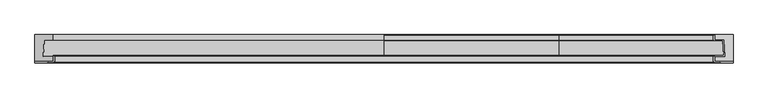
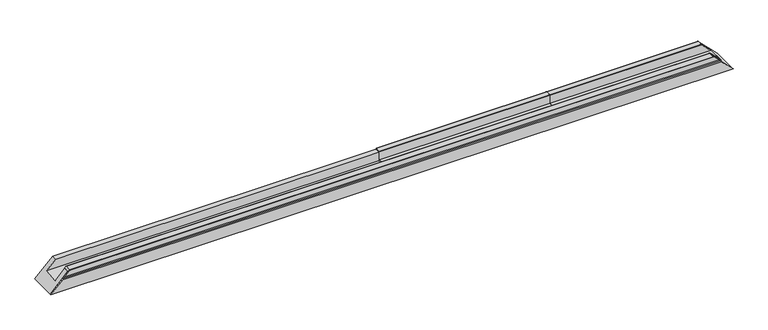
"""IFC4 building model written with IfcOpenShell, lengths in millimetres: proxy geometry, Weiku - Montante - Caixilho duplo 02.2.01.002 : Weiku - Montante - Caixilho duplo 02.2.01.002."""

from ifc_helpers import new_model, si_unit, point, frame, frame_2d, origin, place, context, project, spatial, polyline, circle_curve, ellipse_curve, trimmed, segment, composite_curve, outline, extrude, faceted_brep, source, transform, mapped, element, save
from ifc_brep_helpers import plane_surface, cylinder_surface, revolved_surface, advanced_brep


def generic_models_c7ab0a96(model_context):
    return source(origin(), model_context, "Body", "SolidModel", [
        extrude(outline(composite_curve([segment(polyline([(-15.0, 52.0), (-15.0, 26.0), (-62.0, 23.7770256), (-62.0, 52.0), (-60.0, 52.0), (-60.0, 26.8749739), (-17.0, 28.908759), (-17.0, 55.0)]), True, "CONTINUOUS"), segment(trimmed(circle_curve(frame_2d((-16.0, 55.0)), 1.0), [point((-17.0, 55.0))], [point((-16.0, 56.0))], False, "CARTESIAN"), True, "CONTINUOUS"), segment(polyline([(-16.0, 56.0), (-1.0, 56.0)]), True, "CONTINUOUS"), segment(trimmed(circle_curve(frame_2d((-1.0, 55.0)), 1.0), [point((-1.0, 56.0))], [point((0.0, 55.0))], False, "CARTESIAN"), True, "CONTINUOUS"), segment(polyline([(0.0, 55.0), (0.0, 52.0), (-15.0, 52.0)]), True, "CONTINUOUS")], self_intersect=False)), frame((0.0, 0.0, 0.0), z_axis=(1.0, 0.0, 0.0), x_axis=(0.0, 1.0, 0.0)), (0.0, 0.0, 1.0), 498.5),
        advanced_brep(
        [(945.0, 0.0, 52.0), (942.0, 0.0, 55.0), (941.0, -1.0, 56.0), (941.0, -16.0, 56.0), (942.0, -17.0, 55.0), (968.091241, -17.0, 28.908759), (970.1250261, -60.0, 26.8749739), (945.0, -60.0, 52.0), (945.0, -62.0, 52.0), (973.2229744, -62.0, 23.7770256), (971.0, -15.0, 26.0), (945.0, -15.0, 52.0), (498.5, -15.0, 52.0), (498.5, -15.0, 26.0), (498.5, -62.0, 23.7770256), (498.5, -62.0, 52.0), (498.5, -60.0, 52.0), (498.5, -60.0, 26.8749739), (498.5, -17.0, 28.908759), (498.5, -17.0, 55.0), (498.5, -16.0, 56.0), (498.5, -1.0, 56.0), (498.5, 0.0, 55.0), (498.5, 0.0, 52.0)],
        [
            (0, 1),
            (1, 2, ellipse_curve(frame((942.0, -1.0, 55.0), z_axis=(0.7071067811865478, 0.0, 0.7071067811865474), x_axis=(-0.7071067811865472, 0.0, 0.7071067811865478)), 1.4142136, 1.0)),
            (2, 3),
            (3, 4, ellipse_curve(frame((942.0, -16.0, 55.0), z_axis=(0.7071067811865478, 0.0, 0.7071067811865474), x_axis=(-0.7071067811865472, 0.0, 0.7071067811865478)), 1.4142136, 1.0)),
            (4, 5),
            (5, 6),
            (6, 7),
            (7, 8),
            (8, 9),
            (9, 10),
            (10, 11),
            (11, 0),
            (12, 13),
            (13, 14),
            (14, 15),
            (15, 16),
            (16, 17),
            (17, 18),
            (18, 19),
            (19, 20, circle_curve(frame((498.5, -16.0, 55.0), z_axis=(-1.0, 0.0, 0.0), x_axis=(0.0, -1.0, 0.0)), 1.0)),
            (20, 21),
            (21, 22, circle_curve(frame((498.5, -1.0, 55.0), z_axis=(-1.0, 0.0, 0.0), x_axis=(0.0, -1.0, 0.0)), 1.0)),
            (22, 23),
            (23, 12),
            (23, 0),
            (11, 12),
            (22, 1),
            (21, 2),
            (20, 3),
            (19, 4),
            (18, 5),
            (17, 6),
            (16, 7),
            (15, 8),
            (14, 9),
            (13, 10),
        ],
        [
            plane_surface(frame((927.0, 0.0, 70.0), z_axis=(0.7071067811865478, 0.0, 0.7071067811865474), x_axis=(0.0, -1.0, 0.0))),
            plane_surface(frame((498.5, 0.0, 0.0), z_axis=(-1.0, 0.0, 0.0), x_axis=(0.0, 0.0, 1.0))),
            plane_surface(frame((498.5, -15.0, 52.0), z_axis=(0.0, 0.0, -1.0), x_axis=(1.0, 0.0, 0.0))),
            plane_surface(frame((498.5, 0.0, 52.0), z_axis=(0.0, 1.0, 0.0), x_axis=(1.0, 0.0, 0.0))),
            cylinder_surface(frame((498.5, -1.0, 55.0), z_axis=(-1.0, 0.0, 0.0), x_axis=(0.0, -1.0, 0.0)), 1.0),
            plane_surface(frame((498.5, -1.0, 56.0), z_axis=(0.0, 0.0, 1.0), x_axis=(1.0, 0.0, 0.0))),
            cylinder_surface(frame((498.5, -16.0, 55.0), z_axis=(-1.0, 0.0, 0.0), x_axis=(0.0, -1.0, 0.0)), 1.0),
            plane_surface(frame((498.5, -17.0, 55.0), z_axis=(0.0, -1.0, 0.0), x_axis=(1.0, 0.0, 0.0))),
            plane_surface(frame((498.5, -17.0, 28.908759), z_axis=(0.0, -0.0472445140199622, 0.9988833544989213), x_axis=(1.0, 0.0, 0.0))),
            plane_surface(frame((498.5, -60.0, 26.8749739), z_axis=(0.0, 1.0, 0.0), x_axis=(1.0, 0.0, 0.0))),
            plane_surface(frame((498.5, -60.0, 52.0), z_axis=(0.0, 0.0, 1.0), x_axis=(1.0, 0.0, 0.0))),
            plane_surface(frame((498.5, -62.0, 52.0), z_axis=(0.0, -1.0, 0.0), x_axis=(1.0, 0.0, 0.0))),
            plane_surface(frame((498.5, -62.0, 23.7770256), z_axis=(0.0, 0.047244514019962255, -0.9988833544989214), x_axis=(1.0, 0.0, 0.0))),
            plane_surface(frame((498.5, -15.0, 26.0), z_axis=(0.0, 1.0, 0.0), x_axis=(1.0, 0.0, 0.0))),
        ],
        [
            (0, [[1, 2, 3, 4, 5, 6, 7, 8, 9, 10, 11, 12]]),
            (1, [[13, 14, 15, 16, 17, 18, 19, 20, 21, 22, 23, 24]]),
            (2, [[25, -12, 26, -24]]),
            (3, [[27, -1, -25, -23]]),
            (4, [[28, -2, -27, -22]]),
            (5, [[29, -3, -28, -21]]),
            (6, [[30, -4, -29, -20]]),
            (7, [[31, -5, -30, -19]]),
            (8, [[32, -6, -31, -18]]),
            (9, [[33, -7, -32, -17]]),
            (10, [[34, -8, -33, -16]]),
            (11, [[35, -9, -34, -15]]),
            (12, [[36, -10, -35, -14]]),
            (13, [[-26, -11, -36, -13]]),
        ],
    ),
        advanced_brep(
        [(-945.0, -60.0, 52.0), (-945.0, -77.0, 52.0), (-997.0, -77.0, 0.0), (-997.0, -81.0, 0.0), (-962.0, -81.0, 35.0), (-959.0, -80.0, 38.0), (-956.0, -79.0, 41.0), (-942.0, -79.0, 55.0), (-941.0, -78.0, 56.0), (-941.0, -61.0, 56.0), (-942.0, -60.0, 55.0), (942.0, -60.0, 55.0), (945.0, -60.0, 52.0), (941.0, -61.0, 56.0), (941.0, -78.0, 56.0), (942.0, -79.0, 55.0), (956.0, -79.0, 41.0), (959.0, -80.0, 38.0), (962.0, -81.0, 35.0), (997.0, -81.0, 0.0), (997.0, -77.0, 0.0), (945.0, -77.0, 52.0)],
        [
            (0, 1),
            (1, 2),
            (2, 3),
            (3, 4),
            (4, 5, ellipse_curve(frame((-962.0, -76.0, 35.0), z_axis=(-0.7071067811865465, 0.0, 0.7071067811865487), x_axis=(-0.7071067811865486, 0.0, -0.7071067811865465)), 7.0710678, 5.0)),
            (5, 6, ellipse_curve(frame((-956.0, -84.0, 41.0), z_axis=(0.7071067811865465, 0.0, -0.7071067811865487), x_axis=(0.7071067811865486, 0.0, 0.7071067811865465)), 7.0710678, 5.0)),
            (6, 7),
            (7, 8, ellipse_curve(frame((-942.0, -78.0, 55.0), z_axis=(-0.7071067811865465, 0.0, 0.7071067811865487), x_axis=(-0.7071067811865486, 0.0, -0.7071067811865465)), 1.4142136, 1.0)),
            (8, 9),
            (9, 10, ellipse_curve(frame((-942.0, -61.0, 55.0), z_axis=(-0.7071067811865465, 0.0, 0.7071067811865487), x_axis=(-0.7071067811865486, 0.0, -0.7071067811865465)), 1.4142136, 1.0)),
            (10, 0),
            (10, 11),
            (11, 12),
            (12, 0),
            (9, 13),
            (13, 11, ellipse_curve(frame((942.0, -61.0, 55.0), z_axis=(-0.7071067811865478, 0.0, -0.7071067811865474), x_axis=(-0.7071067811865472, 0.0, 0.7071067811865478)), 1.4142136, 1.0)),
            (8, 14),
            (14, 13),
            (7, 15),
            (15, 14, ellipse_curve(frame((942.0, -78.0, 55.0), z_axis=(-0.7071067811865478, 0.0, -0.7071067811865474), x_axis=(-0.7071067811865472, 0.0, 0.7071067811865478)), 1.4142136, 1.0)),
            (6, 16),
            (16, 15),
            (5, 17),
            (17, 16, ellipse_curve(frame((956.0, -84.0, 41.0), z_axis=(0.7071067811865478, 0.0, 0.7071067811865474), x_axis=(0.7071067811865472, 0.0, -0.7071067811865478)), 7.0710678, 5.0)),
            (4, 18),
            (18, 17, ellipse_curve(frame((962.0, -76.0, 35.0), z_axis=(-0.7071067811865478, 0.0, -0.7071067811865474), x_axis=(-0.7071067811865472, 0.0, 0.7071067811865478)), 7.0710678, 5.0)),
            (19, 18),
            (3, 19),
            (2, 20),
            (20, 19),
            (1, 21),
            (21, 20),
            (12, 21),
        ],
        [
            plane_surface(frame((-997.0, 0.0, 0.0), z_axis=(-0.7071067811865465, 0.0, 0.7071067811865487), x_axis=(0.0, -1.0, 0.0))),
            plane_surface(frame((-997.0, -60.0, 52.0), z_axis=(0.0, 1.0, 0.0), x_axis=(1.0, 0.0, 0.0))),
            cylinder_surface(frame((-997.0, -61.0, 55.0), z_axis=(-1.0, 0.0, 0.0), x_axis=(0.0, -1.0, 0.0)), 1.0),
            plane_surface(frame((-997.0, -61.0, 56.0), z_axis=(0.0, 0.0, 1.0), x_axis=(1.0, 0.0, 0.0))),
            cylinder_surface(frame((-997.0, -78.0, 55.0), z_axis=(-1.0, 0.0, 0.0), x_axis=(0.0, -1.0, 0.0)), 1.0),
            plane_surface(frame((-997.0, -79.0, 55.0), z_axis=(0.0, -1.0, 0.0), x_axis=(1.0, 0.0, 0.0))),
            revolved_surface(polyline([(960.9999999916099, -89.0, 41.0), (-960.9999999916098, -89.0, 41.0)]), (-997.0, -84.0, 41.0), (1.0, 0.0, 0.0)),
            cylinder_surface(frame((-997.0, -76.0, 35.0), z_axis=(-1.0, 0.0, 0.0), x_axis=(0.0, -1.0, 0.0)), 5.0),
            plane_surface(frame((-997.0, -81.0, 35.0), z_axis=(0.0, -1.0, 0.0), x_axis=(1.0, 0.0, 0.0))),
            plane_surface(frame((-997.0, -81.0, 0.0), z_axis=(0.0, 0.0, -1.0), x_axis=(1.0, 0.0, 0.0))),
            plane_surface(frame((-997.0, -77.0, 0.0), z_axis=(0.0, 1.0, 0.0), x_axis=(1.0, 0.0, 0.0))),
            plane_surface(frame((-997.0, -77.0, 52.0), z_axis=(0.0, 0.0, -1.0), x_axis=(1.0, 0.0, 0.0))),
            plane_surface(frame((927.0, 0.0, 70.0), z_axis=(0.7071067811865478, 0.0, 0.7071067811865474), x_axis=(0.0, -1.0, 0.0))),
        ],
        [
            (0, [[1, 2, 3, 4, 5, 6, 7, 8, 9, 10, 11]]),
            (1, [[12, 13, 14, -11]]),
            (2, [[15, 16, -12, -10]]),
            (3, [[17, 18, -15, -9]]),
            (4, [[19, 20, -17, -8]]),
            (5, [[21, 22, -19, -7]]),
            (6, [[23, 24, -21, -6]]),
            (7, [[25, 26, -23, -5]]),
            (8, [[27, -25, -4, 28]]),
            (9, [[-3, 29, 30, -28]]),
            (10, [[-2, 31, 32, -29]]),
            (11, [[-14, 33, -31, -1]]),
            (12, [[-16, -18, -20, -22, -24, -26, -27, -30, -32, -33, -13]]),
        ],
    ),
        faceted_brep([(-971.0, -15.0, 26.0), (971.0, -15.0, 26.0), (945.0, -15.0, 52.0), (-945.0, -15.0, 52.0), (-973.2229744, -62.0, 23.7770256), (973.2229744, -62.0, 23.7770256), (-945.0, -62.0, 52.0), (945.0, -62.0, 52.0), (-945.0, -77.0, 52.0), (945.0, -77.0, 52.0), (997.0, -77.0, 0.0), (-997.0, -77.0, 0.0), (-997.0, 0.0, 0.0), (997.0, 0.0, 0.0), (-945.0, 0.0, 52.0), (945.0, 0.0, 52.0)], [[[0, 1, 2, 3]], [[4, 5, 1, 0]], [[6, 7, 5, 4]], [[8, 9, 7, 6]], [[10, 9, 8, 11]], [[11, 12, 13, 10]], [[12, 14, 15, 13]], [[3, 2, 15, 14]], [[3, 14, 12, 11, 8, 6, 4, 0]], [[1, 5, 7, 9, 10, 13, 15, 2]]]),
    ])


if __name__ == "__main__":
    model = new_model("IFC4")
    model_context = context("Model", 3, world=origin())
    ifc_project = project(units=[si_unit("LENGTHUNIT", "METRE", prefix="MILLI")], contexts=[model_context])
    site = spatial("IfcSite", under=ifc_project)
    building = spatial("IfcBuilding", under=site)
    placement = place(None, origin())
    generic_models_shape = generic_models_c7ab0a96(model_context)
    element("IfcBuildingElementProxy", 1, Name="Weiku - Montante - Caixilho duplo 02.2.01.002 : Weiku - Montante - Caixilho duplo 02.2.01.002", ObjectType="Weiku - Montante - Caixilho duplo 02.2.01.002 : Weiku - Montante - Caixilho duplo 02.2.01.002", at=placement, inside=building, context=model_context, shape_type="MappedRepresentation", body=[
        mapped(generic_models_shape, transform((0.0, 0.0, 0.0), x_axis=(1.0, 0.0, 0.0), y_axis=(0.0, 1.0, 0.0), z_axis=(0.0, 0.0, 1.0))),
    ])
    save(model, "model.ifc")
